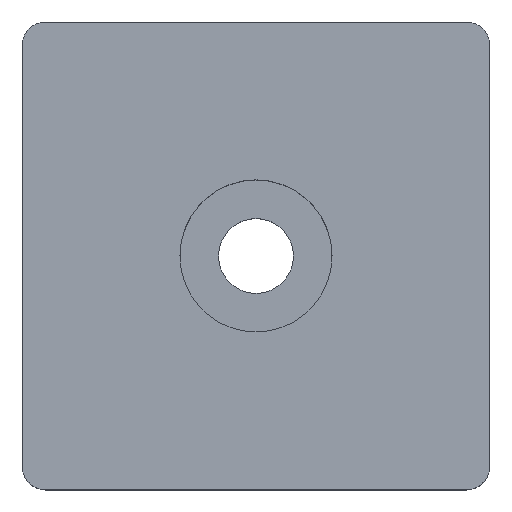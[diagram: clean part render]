
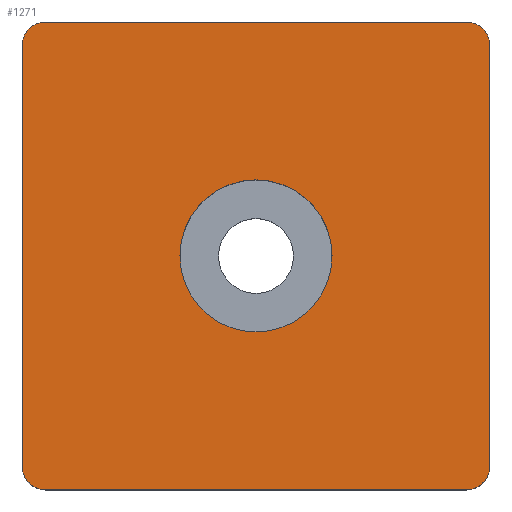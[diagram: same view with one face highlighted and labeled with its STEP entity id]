
A CAD part, top view. The second image highlights one B-rep face of the part: STEP entity #1271.
In plain terms, the highlighted planar face has unit normal (0, 0, 1).
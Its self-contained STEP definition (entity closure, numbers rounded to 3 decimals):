
#90=LINE('',#1871,#204);
#114=LINE('',#1963,#228);
#117=LINE('',#1971,#231);
#173=LINE('',#2124,#287);
#204=VECTOR('',#1479,10.);
#228=VECTOR('',#1553,10.);
#231=VECTOR('',#1562,10.);
#287=VECTOR('',#1738,10.);
#347=FACE_BOUND('',#471,.T.);
#399=FACE_OUTER_BOUND('',#470,.T.);
#470=EDGE_LOOP('',(#1103,#1104,#1105,#1106,#1107,#1108,#1109,#1110));
#471=EDGE_LOOP('',(#1111));
#488=CIRCLE('',#1314,3.25);
#490=CIRCLE('',#1318,1.);
#513=CIRCLE('',#1344,1.);
#514=CIRCLE('',#1347,1.);
#515=CIRCLE('',#1350,1.);
#548=VERTEX_POINT('',#1850);
#550=VERTEX_POINT('',#1858);
#551=VERTEX_POINT('',#1859);
#555=VERTEX_POINT('',#1869);
#597=VERTEX_POINT('',#1957);
#598=VERTEX_POINT('',#1961);
#599=VERTEX_POINT('',#1965);
#600=VERTEX_POINT('',#1969);
#601=VERTEX_POINT('',#1973);
#664=EDGE_CURVE('',#548,#548,#488,.T.);
#668=EDGE_CURVE('',#550,#551,#490,.T.);
#674=EDGE_CURVE('',#550,#555,#90,.T.);
#717=EDGE_CURVE('',#597,#555,#513,.T.);
#720=EDGE_CURVE('',#597,#598,#114,.T.);
#721=EDGE_CURVE('',#599,#598,#514,.T.);
#724=EDGE_CURVE('',#599,#600,#117,.T.);
#725=EDGE_CURVE('',#601,#600,#515,.T.);
#799=EDGE_CURVE('',#601,#551,#173,.T.);
#1103=ORIENTED_EDGE('',*,*,#668,.F.);
#1104=ORIENTED_EDGE('',*,*,#674,.T.);
#1105=ORIENTED_EDGE('',*,*,#717,.F.);
#1106=ORIENTED_EDGE('',*,*,#720,.T.);
#1107=ORIENTED_EDGE('',*,*,#721,.F.);
#1108=ORIENTED_EDGE('',*,*,#724,.T.);
#1109=ORIENTED_EDGE('',*,*,#725,.F.);
#1110=ORIENTED_EDGE('',*,*,#799,.T.);
#1111=ORIENTED_EDGE('',*,*,#664,.T.);
#1211=PLANE('',#1409);
#1271=ADVANCED_FACE('',(#399,#347),#1211,.T.);
#1314=AXIS2_PLACEMENT_3D('',#1851,#1459,#1460);
#1318=AXIS2_PLACEMENT_3D('',#1860,#1469,#1470);
#1344=AXIS2_PLACEMENT_3D('',#1958,#1547,#1548);
#1347=AXIS2_PLACEMENT_3D('',#1966,#1556,#1557);
#1350=AXIS2_PLACEMENT_3D('',#1974,#1565,#1566);
#1409=AXIS2_PLACEMENT_3D('',#2125,#1739,#1740);
#1459=DIRECTION('center_axis',(0.,0.,-1.));
#1460=DIRECTION('ref_axis',(1.,0.,0.));
#1469=DIRECTION('center_axis',(0.,0.,-1.));
#1470=DIRECTION('ref_axis',(-0.707,0.707,0.));
#1479=DIRECTION('',(0.,-1.,0.));
#1547=DIRECTION('center_axis',(0.,0.,-1.));
#1548=DIRECTION('ref_axis',(-0.707,-0.707,0.));
#1553=DIRECTION('',(1.,0.,0.));
#1556=DIRECTION('center_axis',(0.,0.,-1.));
#1557=DIRECTION('ref_axis',(0.707,-0.707,0.));
#1562=DIRECTION('',(0.,1.,0.));
#1565=DIRECTION('center_axis',(0.,0.,-1.));
#1566=DIRECTION('ref_axis',(0.707,0.707,0.));
#1738=DIRECTION('',(-1.,0.,0.));
#1739=DIRECTION('center_axis',(0.,0.,1.));
#1740=DIRECTION('ref_axis',(1.,0.,0.));
#1850=CARTESIAN_POINT('',(-3.25,0.,5.));
#1851=CARTESIAN_POINT('Origin',(0.,0.,5.));
#1858=CARTESIAN_POINT('',(-10.,9.,5.));
#1859=CARTESIAN_POINT('',(-9.,10.,5.));
#1860=CARTESIAN_POINT('Origin',(-9.,9.,5.));
#1869=CARTESIAN_POINT('',(-10.,-9.,5.));
#1871=CARTESIAN_POINT('',(-10.,10.,5.));
#1957=CARTESIAN_POINT('',(-9.,-10.,5.));
#1958=CARTESIAN_POINT('Origin',(-9.,-9.,5.));
#1961=CARTESIAN_POINT('',(9.,-10.,5.));
#1963=CARTESIAN_POINT('',(-10.,-10.,5.));
#1965=CARTESIAN_POINT('',(10.,-9.,5.));
#1966=CARTESIAN_POINT('Origin',(9.,-9.,5.));
#1969=CARTESIAN_POINT('',(10.,9.,5.));
#1971=CARTESIAN_POINT('',(10.,-10.,5.));
#1973=CARTESIAN_POINT('',(9.,10.,5.));
#1974=CARTESIAN_POINT('Origin',(9.,9.,5.));
#2124=CARTESIAN_POINT('',(10.,10.,5.));
#2125=CARTESIAN_POINT('Origin',(0.,0.,5.));
